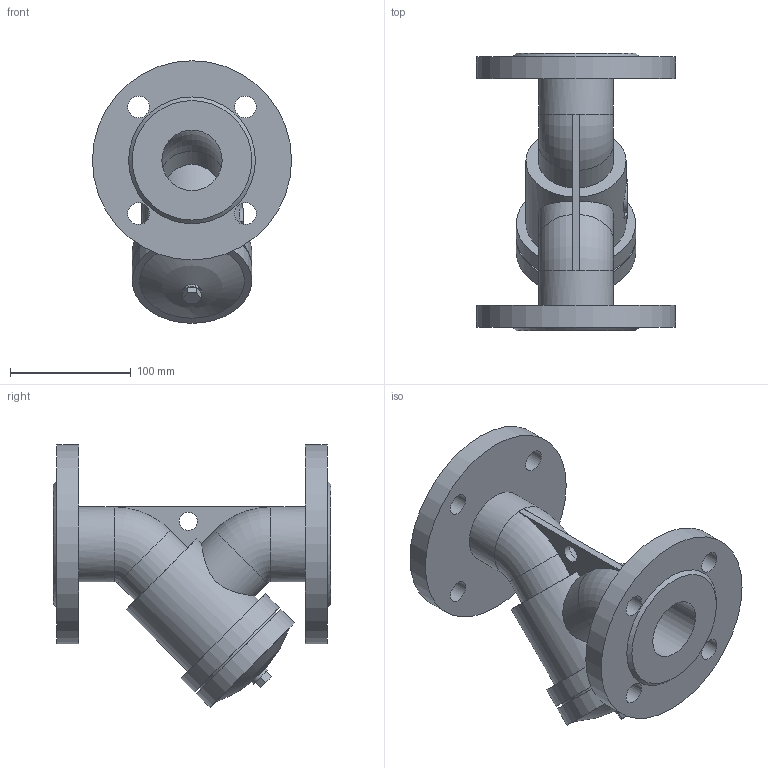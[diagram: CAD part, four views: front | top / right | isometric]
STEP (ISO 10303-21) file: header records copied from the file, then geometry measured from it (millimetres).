
FILE_DESCRIPTION(('STEP AP203'), '1');
FILE_NAME('Ôèëüòð ñåò÷àòûé ôëàíöåâûé 021Y DN50 PN10_PN16', '', ('UNSPECIFIED'), ('UNSPECIFIED'), 'ASCON STEP Converter 1.6', 'ASCON Math Kernel', '');
FILE_SCHEMA(('CONFIG_CONTROL_DESIGN'));
Length unit declared in the file: millimetre
Bounding box: 165 x 230 x 217.5 mm (x, y, z)
Volume: 1553668.6 mm3; surface area: 209439.1 mm2
Topology: 1 solids, 1 shells, 76 faces, 167 edges, 107 vertices
Faces by surface type: plane 37, cylinder 32, torus 4, cone 2, sphere 1
Full cylindrical faces by diameter (mm): 15 x1, 16 x1, 18 x8, 50 x4, 62 x2, 83 x1, 89 x1, 99 x2, 165 x2
Entity records: 3582 total; most frequent: CARTESIAN_POINT 1288, DIRECTION 351, ORIENTED_EDGE 280, AXIS2_PLACEMENT_3D 146, EDGE_CURVE 140, EDGE_LOOP 135, VERTEX_POINT 107, FACE_BOUND 84
